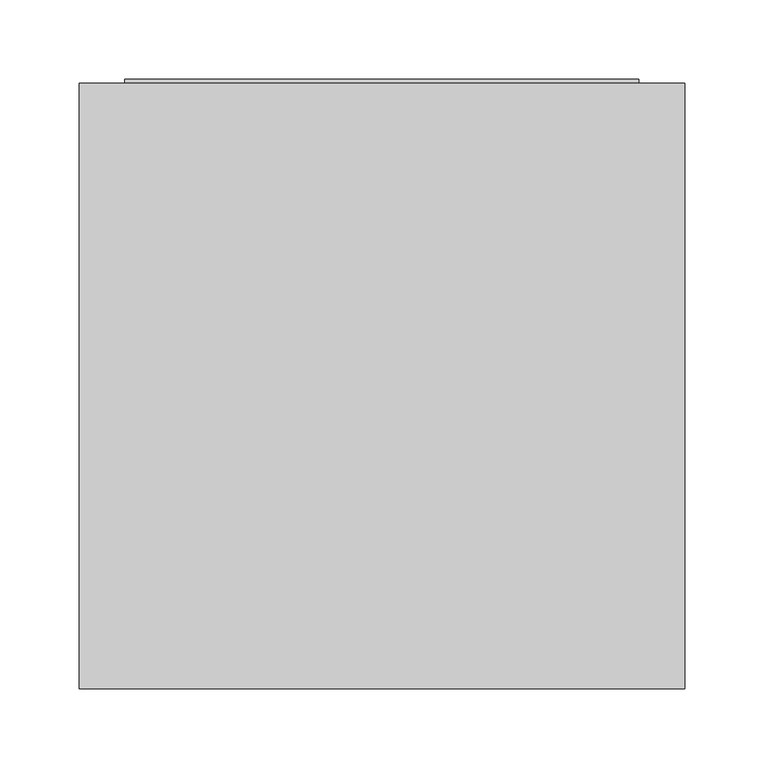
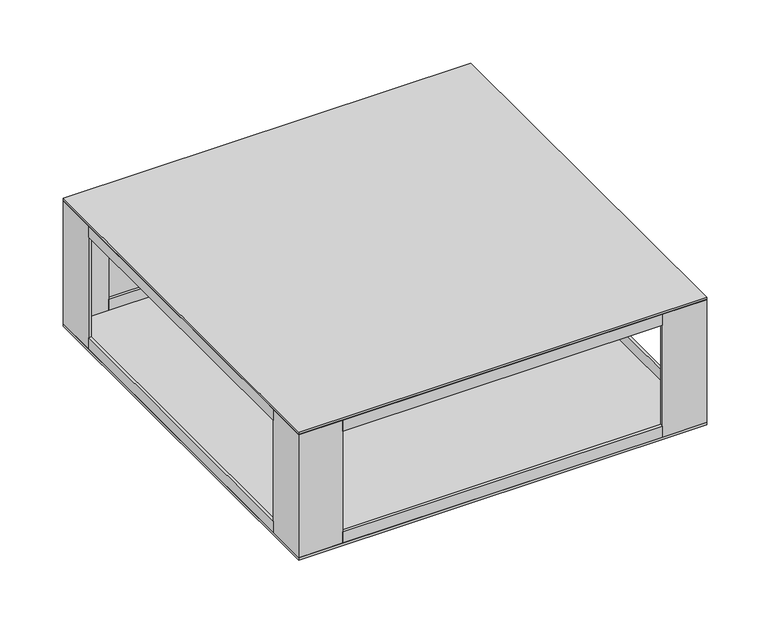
"""IFC4 building model written with IfcOpenShell, lengths in millimetres: cable carrier fitting geometry, CDT_TE_Box Derivation_Basorcanal : Basorcanal CDT."""

from ifc_helpers import new_model, si_unit, frame, origin, place, context, project, spatial, polyline, outline, extrude, source, transform, mapped, element, save


def cable_carrier_fitting_2ed938b1(model_context):
    return source(origin(), model_context, "Body", "SweptSolid", [
        extrude(outline(polyline([(150.0, -188.96), (150.0, -191.5), (-150.0, -191.5), (-150.0, -188.96), (150.0, -188.96)])), frame((0.0, 0.0, -60.96), z_axis=(0.0, 0.0, 1.0), x_axis=(1.0, 0.0, 0.0)), (0.0, 0.0, 1.0), 10.96),
        extrude(outline(polyline([(-188.96, 150.0), (-188.96, -150.0), (-191.5, -150.0), (-191.5, 150.0), (-188.96, 150.0)])), frame((0.0, 0.0, -60.96), z_axis=(0.0, 0.0, 1.0), x_axis=(1.0, 0.0, 0.0)), (0.0, 0.0, 1.0), 10.96),
        extrude(outline(polyline([(150.0, 191.5), (150.0, 188.96), (-150.0, 188.96), (-150.0, 191.5), (150.0, 191.5)])), frame((0.0, 0.0, -60.96), z_axis=(0.0, 0.0, 1.0), x_axis=(1.0, 0.0, 0.0)), (0.0, 0.0, 1.0), 10.96),
        extrude(outline(polyline([(191.5, 150.0), (191.5, -150.0), (188.96, -150.0), (188.96, 150.0), (191.5, 150.0)])), frame((0.0, 0.0, -60.96), z_axis=(0.0, 0.0, 1.0), x_axis=(1.0, 0.0, 0.0)), (0.0, 0.0, 1.0), 10.96),
        extrude(outline(polyline([(150.0, 191.5), (150.0, 188.96), (-150.0, 188.96), (-150.0, 191.5), (150.0, 191.5)])), frame((0.0, 0.0, 50.0), z_axis=(0.0, 0.0, 1.0), x_axis=(1.0, 0.0, 0.0)), (0.0, 0.0, 1.0), 10.96),
        extrude(outline(polyline([(-188.96, 150.0), (-188.96, -150.0), (-191.5, -150.0), (-191.5, 150.0), (-188.96, 150.0)])), frame((0.0, 0.0, 50.0), z_axis=(0.0, 0.0, 1.0), x_axis=(1.0, 0.0, 0.0)), (0.0, 0.0, 1.0), 10.96),
        extrude(outline(polyline([(188.96, 150.0), (191.5, 150.0), (191.5, -150.0), (188.96, -150.0), (188.96, 150.0)])), frame((0.0, 0.0, 50.0), z_axis=(0.0, 0.0, 1.0), x_axis=(1.0, 0.0, 0.0)), (0.0, 0.0, 1.0), 10.96),
        extrude(outline(polyline([(150.0, -188.96), (150.0, -191.5), (-150.0, -191.5), (-150.0, -188.96), (150.0, -188.96)])), frame((0.0, 0.0, 50.0), z_axis=(0.0, 0.0, 1.0), x_axis=(1.0, 0.0, 0.0)), (0.0, 0.0, 1.0), 10.96),
        extrude(outline(polyline([(-150.0, 191.5), (-150.0, 188.96), (-188.96, 188.96), (-188.96, 150.0), (-191.5, 150.0), (-191.5, 191.5), (-150.0, 191.5)])), frame((0.0, 0.0, -60.96), z_axis=(0.0, 0.0, 1.0), x_axis=(1.0, 0.0, 0.0)), (0.0, 0.0, 1.0), 121.92),
        extrude(outline(polyline([(150.0, 191.5), (191.5, 191.5), (191.5, 150.0), (188.96, 150.0), (188.96, 188.96), (150.0, 188.96), (150.0, 191.5)])), frame((0.0, 0.0, -60.96), z_axis=(0.0, 0.0, 1.0), x_axis=(1.0, 0.0, 0.0)), (0.0, 0.0, 1.0), 121.92),
        extrude(outline(polyline([(-150.0, -191.5), (-191.5, -191.5), (-191.5, -150.0), (-188.96, -150.0), (-188.96, -188.96), (-150.0, -188.96), (-150.0, -191.5)])), frame((0.0, 0.0, -60.96), z_axis=(0.0, 0.0, 1.0), x_axis=(1.0, 0.0, 0.0)), (0.0, 0.0, 1.0), 121.92),
        extrude(outline(polyline([(150.0, -191.5), (150.0, -188.96), (188.96, -188.96), (188.96, -150.0), (191.5, -150.0), (191.5, -191.5), (150.0, -191.5)])), frame((0.0, 0.0, -60.96), z_axis=(0.0, 0.0, 1.0), x_axis=(1.0, 0.0, 0.0)), (0.0, 0.0, 1.0), 121.92),
        extrude(outline(polyline([(191.5, 191.5), (191.5, -191.5), (-191.5, -191.5), (-191.5, 191.5), (191.5, 191.5)])), frame((0.0, 0.0, 60.96), z_axis=(0.0, 0.0, 1.0), x_axis=(1.0, 0.0, 0.0)), (0.0, 0.0, 1.0), 2.54),
        extrude(outline(polyline([(191.5, -191.5), (-191.5, -191.5), (-191.5, 191.5), (191.5, 191.5), (191.5, -191.5)])), frame((0.0, 0.0, -63.5), z_axis=(0.0, 0.0, 1.0), x_axis=(1.0, 0.0, 0.0)), (0.0, 0.0, 1.0), 2.54),
        extrude(outline(polyline([(162.5, 191.5), (-162.5, 191.5), (-162.5, 194.04), (162.5, 194.04), (162.5, 191.5)])), frame((0.0, 0.0, -59.5), z_axis=(0.0, 0.0, 1.0), x_axis=(1.0, 0.0, 0.0)), (0.0, 0.0, 1.0), 117.46),
    ])


if __name__ == "__main__":
    model = new_model("IFC4")
    model_context = context("Model", 3, world=origin())
    ifc_project = project(units=[si_unit("LENGTHUNIT", "METRE", prefix="MILLI")], contexts=[model_context])
    site = spatial("IfcSite", under=ifc_project)
    building = spatial("IfcBuilding", under=site)
    placement = place(None, origin())
    cable_carrier_fitting_shape = cable_carrier_fitting_2ed938b1(model_context)
    element("IfcCableCarrierFitting", 1, ObjectType="CDT_TE_Box Derivation_Basorcanal : Basorcanal CDT", at=placement, inside=building, context=model_context, shape_type="MappedRepresentation", body=[
        mapped(cable_carrier_fitting_shape, transform((0.0, 0.0, 0.0), x_axis=(1.0, 0.0, 0.0), y_axis=(0.0, 1.0, 0.0), z_axis=(0.0, 0.0, 1.0))),
    ])
    save(model, "model.ifc")
